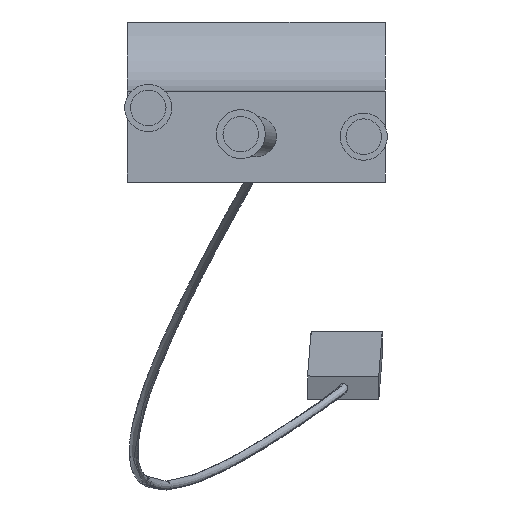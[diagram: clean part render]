
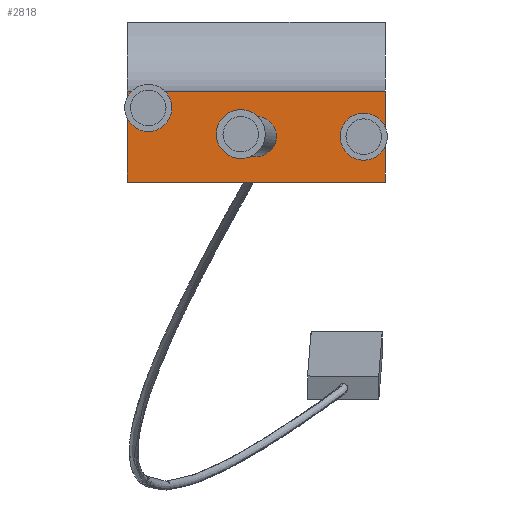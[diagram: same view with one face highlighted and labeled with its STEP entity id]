
A CAD part, front view. The second image highlights one B-rep face of the part: STEP entity #2818.
In plain terms, the highlighted planar face has unit normal (0, -1, 0).
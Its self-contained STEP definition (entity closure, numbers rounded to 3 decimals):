
#34 = CARTESIAN_POINT ( 'NONE',  ( 12.25, -36.875, -3.888 ) ) ;
#90 = VERTEX_POINT ( 'NONE', #1870 ) ;
#125 = DIRECTION ( 'NONE',  ( 0., -1., 0. ) ) ;
#166 = VECTOR ( 'NONE', #517, 1000. ) ;
#180 = LINE ( 'NONE', #1893, #1797 ) ;
#193 = CIRCLE ( 'NONE', #2409, 2.25 ) ;
#221 = DIRECTION ( 'NONE',  ( 0., 0., -1. ) ) ;
#225 = AXIS2_PLACEMENT_3D ( 'NONE', #3471, #1852, #2188 ) ;
#339 = EDGE_CURVE ( 'NONE', #1308, #90, #3778, .T. ) ;
#353 = EDGE_CURVE ( 'NONE', #2722, #1762, #193, .T. ) ;
#358 = CARTESIAN_POINT ( 'NONE',  ( 12.25, -36.875, -6.138 ) ) ;
#414 = EDGE_CURVE ( 'NONE', #1762, #3472, #180, .T. ) ;
#471 = AXIS2_PLACEMENT_3D ( 'NONE', #817, #125, #2097 ) ;
#517 = DIRECTION ( 'NONE',  ( 0., 0., -1. ) ) ;
#539 = VERTEX_POINT ( 'NONE', #3193 ) ;
#578 = EDGE_CURVE ( 'NONE', #1974, #539, #1988, .T. ) ;
#582 = DIRECTION ( 'NONE',  ( 0., 1., 0. ) ) ;
#601 = CIRCLE ( 'NONE', #471, 2.25 ) ;
#619 = VERTEX_POINT ( 'NONE', #691 ) ;
#639 = ORIENTED_EDGE ( 'NONE', *, *, #3102, .F. ) ;
#691 = CARTESIAN_POINT ( 'NONE',  ( 14.5, -36.875, 1.225 ) ) ;
#781 = EDGE_LOOP ( 'NONE', ( #2164, #1112 ) ) ;
#793 = CARTESIAN_POINT ( 'NONE',  ( -14.5, -36.875, -9. ) ) ;
#816 = AXIS2_PLACEMENT_3D ( 'NONE', #4214, #2951, #1269 ) ;
#817 = CARTESIAN_POINT ( 'NONE',  ( -12.053, -36.875, -0.66 ) ) ;
#824 = CARTESIAN_POINT ( 'NONE',  ( 14.5, -36.875, -9. ) ) ;
#827 = VERTEX_POINT ( 'NONE', #793 ) ;
#869 = FACE_BOUND ( 'NONE', #781, .T. ) ;
#885 = CARTESIAN_POINT ( 'NONE',  ( 12.25, -36.875, -1.638 ) ) ;
#901 = LINE ( 'NONE', #1212, #3862 ) ;
#915 = VECTOR ( 'NONE', #2619, 1000. ) ;
#1012 = AXIS2_PLACEMENT_3D ( 'NONE', #3581, #2934, #4245 ) ;
#1112 = ORIENTED_EDGE ( 'NONE', *, *, #339, .F. ) ;
#1125 = DIRECTION ( 'NONE',  ( 0., 0., -1. ) ) ;
#1164 = VECTOR ( 'NONE', #4125, 1000. ) ;
#1184 = LINE ( 'NONE', #1444, #1164 ) ;
#1212 = CARTESIAN_POINT ( 'NONE',  ( -14.5, -36.875, -9. ) ) ;
#1250 = ORIENTED_EDGE ( 'NONE', *, *, #4232, .T. ) ;
#1269 = DIRECTION ( 'NONE',  ( 0., 0., -1. ) ) ;
#1286 = ORIENTED_EDGE ( 'NONE', *, *, #2546, .F. ) ;
#1302 = ORIENTED_EDGE ( 'NONE', *, *, #3049, .T. ) ;
#1306 = VERTEX_POINT ( 'NONE', #1952 ) ;
#1308 = VERTEX_POINT ( 'NONE', #2003 ) ;
#1314 = LINE ( 'NONE', #2908, #166 ) ;
#1381 = CARTESIAN_POINT ( 'NONE',  ( -14.5, -36.875, 1.225 ) ) ;
#1444 = CARTESIAN_POINT ( 'NONE',  ( -14.5, -36.875, 1.225 ) ) ;
#1451 = ORIENTED_EDGE ( 'NONE', *, *, #2394, .F. ) ;
#1467 = AXIS2_PLACEMENT_3D ( 'NONE', #3365, #2781, #1125 ) ;
#1529 = DIRECTION ( 'NONE',  ( 1., 0., 0. ) ) ;
#1540 = CARTESIAN_POINT ( 'NONE',  ( -14.5, -36.875, 1.225 ) ) ;
#1586 = ORIENTED_EDGE ( 'NONE', *, *, #578, .F. ) ;
#1707 = DIRECTION ( 'NONE',  ( 0., 0., -1. ) ) ;
#1762 = VERTEX_POINT ( 'NONE', #2582 ) ;
#1779 = DIRECTION ( 'NONE',  ( 0., 0., -1. ) ) ;
#1783 = ORIENTED_EDGE ( 'NONE', *, *, #414, .F. ) ;
#1797 = VECTOR ( 'NONE', #221, 1000. ) ;
#1852 = DIRECTION ( 'NONE',  ( 0., -1., 0. ) ) ;
#1870 = CARTESIAN_POINT ( 'NONE',  ( -0.001, -36.875, -6.137 ) ) ;
#1893 = CARTESIAN_POINT ( 'NONE',  ( 14.5, -36.875, 9. ) ) ;
#1896 = FACE_OUTER_BOUND ( 'NONE', #3642, .T. ) ;
#1952 = CARTESIAN_POINT ( 'NONE',  ( -10.824, -36.875, 1.225 ) ) ;
#1954 = VECTOR ( 'NONE', #3955, 1000. ) ;
#1974 = VERTEX_POINT ( 'NONE', #2417 ) ;
#1988 = CIRCLE ( 'NONE', #816, 2.25 ) ;
#2003 = CARTESIAN_POINT ( 'NONE',  ( -0.001, -36.875, -1.637 ) ) ;
#2097 = DIRECTION ( 'NONE',  ( 0., 0., -1. ) ) ;
#2098 = CARTESIAN_POINT ( 'NONE',  ( -0.001, -36.875, -3.887 ) ) ;
#2164 = ORIENTED_EDGE ( 'NONE', *, *, #3378, .F. ) ;
#2188 = DIRECTION ( 'NONE',  ( 0., 0., -1. ) ) ;
#2251 = CARTESIAN_POINT ( 'NONE',  ( -14.5, -36.875, 9. ) ) ;
#2255 = CARTESIAN_POINT ( 'NONE',  ( -14.5, -36.875, 9. ) ) ;
#2375 = DIRECTION ( 'NONE',  ( 0., -1., 0. ) ) ;
#2394 = EDGE_CURVE ( 'NONE', #539, #1306, #601, .T. ) ;
#2409 = AXIS2_PLACEMENT_3D ( 'NONE', #34, #2375, #1707 ) ;
#2417 = CARTESIAN_POINT ( 'NONE',  ( -13.282, -36.875, 1.225 ) ) ;
#2436 = CIRCLE ( 'NONE', #225, 2.25 ) ;
#2457 = EDGE_CURVE ( 'NONE', #1306, #619, #1184, .T. ) ;
#2479 = AXIS2_PLACEMENT_3D ( 'NONE', #2098, #2701, #1779 ) ;
#2546 = EDGE_CURVE ( 'NONE', #3133, #2722, #3348, .T. ) ;
#2557 = PLANE ( 'NONE',  #3121 ) ;
#2570 = VERTEX_POINT ( 'NONE', #1540 ) ;
#2582 = CARTESIAN_POINT ( 'NONE',  ( 14.5, -36.875, -3.888 ) ) ;
#2619 = DIRECTION ( 'NONE',  ( 0., 0., -1. ) ) ;
#2701 = DIRECTION ( 'NONE',  ( 0., -1., 0. ) ) ;
#2722 = VERTEX_POINT ( 'NONE', #358 ) ;
#2781 = DIRECTION ( 'NONE',  ( 0., -1., 0. ) ) ;
#2818 = ADVANCED_FACE ( 'NONE', ( #869, #1896 ), #2557, .F. ) ;
#2854 = ORIENTED_EDGE ( 'NONE', *, *, #2457, .F. ) ;
#2908 = CARTESIAN_POINT ( 'NONE',  ( 14.5, -36.875, 9. ) ) ;
#2934 = DIRECTION ( 'NONE',  ( 0., -1., 0. ) ) ;
#2951 = DIRECTION ( 'NONE',  ( 0., -1., 0. ) ) ;
#3049 = EDGE_CURVE ( 'NONE', #827, #3472, #901, .T. ) ;
#3053 = CIRCLE ( 'NONE', #1467, 2.25 ) ;
#3102 = EDGE_CURVE ( 'NONE', #1762, #3133, #2436, .T. ) ;
#3121 = AXIS2_PLACEMENT_3D ( 'NONE', #2251, #582, #3576 ) ;
#3133 = VERTEX_POINT ( 'NONE', #885 ) ;
#3193 = CARTESIAN_POINT ( 'NONE',  ( -12.053, -36.875, -2.91 ) ) ;
#3211 = EDGE_CURVE ( 'NONE', #2570, #1974, #3894, .T. ) ;
#3348 = CIRCLE ( 'NONE', #1012, 2.25 ) ;
#3365 = CARTESIAN_POINT ( 'NONE',  ( -0.001, -36.875, -3.887 ) ) ;
#3378 = EDGE_CURVE ( 'NONE', #90, #1308, #3053, .T. ) ;
#3466 = LINE ( 'NONE', #2255, #915 ) ;
#3471 = CARTESIAN_POINT ( 'NONE',  ( 12.25, -36.875, -3.888 ) ) ;
#3472 = VERTEX_POINT ( 'NONE', #824 ) ;
#3509 = ORIENTED_EDGE ( 'NONE', *, *, #353, .F. ) ;
#3576 = DIRECTION ( 'NONE',  ( 0., 0., 1. ) ) ;
#3581 = CARTESIAN_POINT ( 'NONE',  ( 12.25, -36.875, -3.888 ) ) ;
#3642 = EDGE_LOOP ( 'NONE', ( #1586, #3688, #1250, #1302, #1783, #3509, #1286, #639, #3755, #2854, #1451 ) ) ;
#3688 = ORIENTED_EDGE ( 'NONE', *, *, #3211, .F. ) ;
#3755 = ORIENTED_EDGE ( 'NONE', *, *, #4241, .F. ) ;
#3778 = CIRCLE ( 'NONE', #2479, 2.25 ) ;
#3862 = VECTOR ( 'NONE', #1529, 1000. ) ;
#3894 = LINE ( 'NONE', #1381, #1954 ) ;
#3955 = DIRECTION ( 'NONE',  ( 1., 0., 0. ) ) ;
#4125 = DIRECTION ( 'NONE',  ( 1., 0., 0. ) ) ;
#4214 = CARTESIAN_POINT ( 'NONE',  ( -12.053, -36.875, -0.66 ) ) ;
#4232 = EDGE_CURVE ( 'NONE', #2570, #827, #3466, .T. ) ;
#4241 = EDGE_CURVE ( 'NONE', #619, #1762, #1314, .T. ) ;
#4245 = DIRECTION ( 'NONE',  ( 0., 0., -1. ) ) ;
